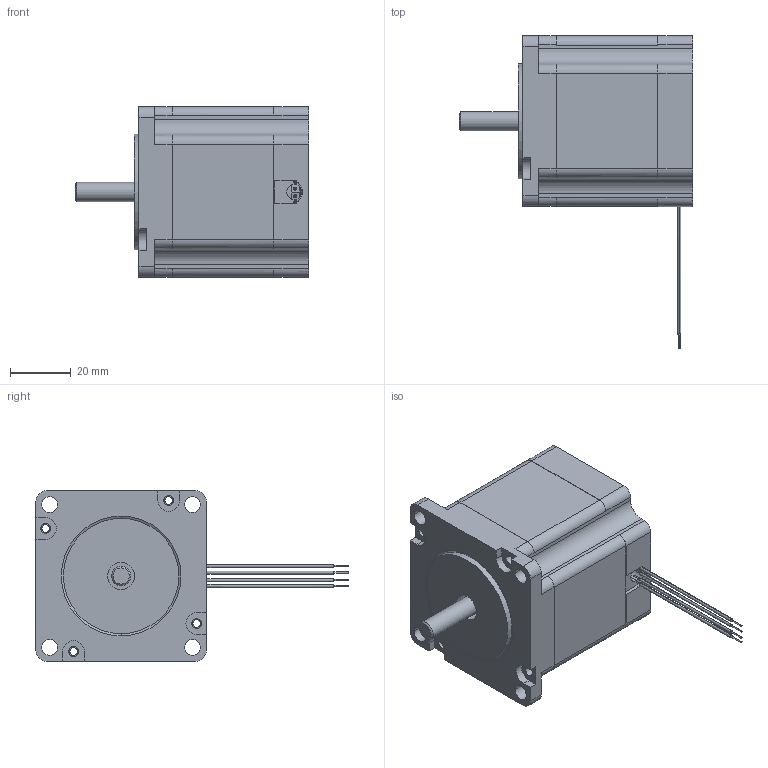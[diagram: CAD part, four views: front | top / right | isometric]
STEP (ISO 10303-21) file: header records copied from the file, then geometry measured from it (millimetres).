
FILE_DESCRIPTION( ('This file contains a STEP AP42 implementation' ,'as created by ZW3D STEP Interface translator.' ,'') ,'2;1' );
FILE_NAME( '57HS56H-XXXX-XXX.stp' ,'26 115.10 958', (''), ('ZWCAD Software Co.'), 'Version 1.0', 'ZW3D to STEP translator', '' );
FILE_SCHEMA(('AUTOMOTIVE_DESIGN { 1 0 10303 214 1 1 1 1 }'));
Length unit declared in the file: millimetre
Products named in the file (1): 0
Bounding box: 77.01 x 103.22 x 56.44 mm (x, y, z)
Volume: 87053.1 mm3; surface area: 61873 mm2
Topology: 4 solids, 4 shells, 1245 faces, 3933 edges, 2532 vertices
Faces by surface type: cylinder 565, plane 508, torus 112, cone 60
Full cylindrical faces by diameter (mm): 6.35 x2, 38.1 x1
Entity records: 45857 total; most frequent: DIRECTION 8039, CARTESIAN_POINT 8038, ORIENTED_EDGE 7866, EDGE_CURVE 3933, AXIS2_PLACEMENT_3D 2901, VERTEX_POINT 2532, VECTOR 2237, LINE 2237
